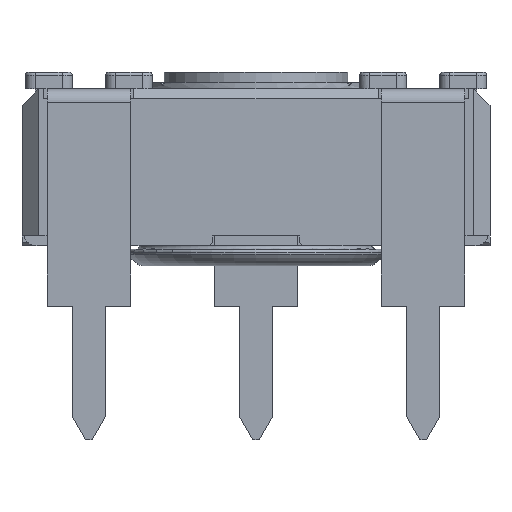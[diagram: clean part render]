
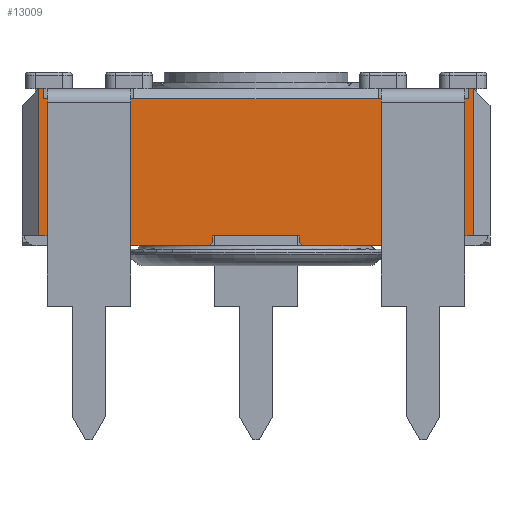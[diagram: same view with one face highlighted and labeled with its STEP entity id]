
A CAD part, front view. The second image highlights one B-rep face of the part: STEP entity #13009.
In plain terms, the highlighted planar face has unit normal (0, -1, 0).
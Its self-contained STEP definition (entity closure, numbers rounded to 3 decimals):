
#979=FACE_OUTER_BOUND('',#1659,.T.);
#1659=EDGE_LOOP('',(#10183,#10184,#10185,#10186,#10187,#10188,#10189,#10190,
#10191,#10192,#10193,#10194,#10195,#10196,#10197,#10198,#10199,#10200,#10201,
#10202,#10203,#10204,#10205,#10206,#10207));
#2163=LINE('',#18351,#3664);
#2171=LINE('',#18371,#3672);
#2195=LINE('',#18418,#3696);
#2196=LINE('',#18420,#3697);
#2201=LINE('',#18431,#3702);
#2225=LINE('',#18478,#3726);
#2413=LINE('',#19033,#3914);
#2426=LINE('',#19057,#3927);
#2576=LINE('',#19607,#4077);
#2781=LINE('',#20130,#4282);
#2786=LINE('',#20140,#4287);
#2791=LINE('',#20150,#4292);
#2806=LINE('',#20176,#4307);
#2914=LINE('',#20494,#4415);
#2922=LINE('',#20512,#4423);
#2928=LINE('',#20520,#4429);
#2929=LINE('',#20523,#4430);
#2930=LINE('',#20525,#4431);
#2931=LINE('',#20527,#4432);
#2932=LINE('',#20528,#4433);
#2933=LINE('',#20529,#4434);
#2934=LINE('',#20530,#4435);
#2935=LINE('',#20531,#4436);
#2936=LINE('',#20532,#4437);
#2937=LINE('',#20533,#4438);
#3664=VECTOR('',#14697,10.);
#3672=VECTOR('',#14719,10.);
#3696=VECTOR('',#14745,10.);
#3697=VECTOR('',#14748,10.);
#3702=VECTOR('',#14763,10.);
#3726=VECTOR('',#14789,10.);
#3914=VECTOR('',#15351,10.);
#3927=VECTOR('',#15378,10.);
#4077=VECTOR('',#15750,10.);
#4282=VECTOR('',#16097,10.);
#4287=VECTOR('',#16102,10.);
#4292=VECTOR('',#16107,10.);
#4307=VECTOR('',#16124,10.);
#4415=VECTOR('',#16380,10.);
#4423=VECTOR('',#16392,10.);
#4429=VECTOR('',#16402,10.);
#4430=VECTOR('',#16405,10.);
#4431=VECTOR('',#16406,10.);
#4432=VECTOR('',#16407,10.);
#4433=VECTOR('',#16408,10.);
#4434=VECTOR('',#16409,10.);
#4435=VECTOR('',#16410,10.);
#4436=VECTOR('',#16411,10.);
#4437=VECTOR('',#16412,10.);
#4438=VECTOR('',#16413,10.);
#5083=VERTEX_POINT('',#18204);
#5089=VERTEX_POINT('',#18221);
#5099=VERTEX_POINT('',#18243);
#5147=VERTEX_POINT('',#18350);
#5152=VERTEX_POINT('',#18370);
#5174=VERTEX_POINT('',#18416);
#5175=VERTEX_POINT('',#18430);
#5197=VERTEX_POINT('',#18476);
#5376=VERTEX_POINT('',#19030);
#5377=VERTEX_POINT('',#19032);
#5380=VERTEX_POINT('',#19054);
#5381=VERTEX_POINT('',#19056);
#5513=VERTEX_POINT('',#19603);
#5665=VERTEX_POINT('',#20129);
#5669=VERTEX_POINT('',#20137);
#5670=VERTEX_POINT('',#20139);
#5674=VERTEX_POINT('',#20147);
#5675=VERTEX_POINT('',#20149);
#5752=VERTEX_POINT('',#20492);
#5753=VERTEX_POINT('',#20493);
#5760=VERTEX_POINT('',#20510);
#5761=VERTEX_POINT('',#20511);
#5762=VERTEX_POINT('',#20522);
#5763=VERTEX_POINT('',#20524);
#5764=VERTEX_POINT('',#20526);
#6418=EDGE_CURVE('',#5147,#5083,#2163,.T.);
#6428=EDGE_CURVE('',#5152,#5147,#2171,.T.);
#6452=EDGE_CURVE('',#5083,#5174,#2195,.T.);
#6453=EDGE_CURVE('',#5089,#5099,#2196,.T.);
#6458=EDGE_CURVE('',#5175,#5089,#2201,.T.);
#6482=EDGE_CURVE('',#5099,#5197,#2225,.T.);
#6761=EDGE_CURVE('',#5377,#5376,#2413,.T.);
#6774=EDGE_CURVE('',#5381,#5380,#2426,.T.);
#6982=EDGE_CURVE('',#5381,#5513,#2576,.T.);
#7208=EDGE_CURVE('',#5665,#5513,#2781,.T.);
#7213=EDGE_CURVE('',#5670,#5669,#2786,.T.);
#7218=EDGE_CURVE('',#5675,#5674,#2791,.T.);
#7233=EDGE_CURVE('',#5675,#5376,#2806,.T.);
#7360=EDGE_CURVE('',#5752,#5753,#2914,.T.);
#7368=EDGE_CURVE('',#5760,#5761,#2922,.T.);
#7374=EDGE_CURVE('',#5670,#5752,#2928,.T.);
#7375=EDGE_CURVE('',#5669,#5762,#2929,.T.);
#7376=EDGE_CURVE('',#5763,#5762,#2930,.T.);
#7377=EDGE_CURVE('',#5763,#5764,#2931,.T.);
#7378=EDGE_CURVE('',#5764,#5665,#2932,.T.);
#7379=EDGE_CURVE('',#5380,#5175,#2933,.T.);
#7380=EDGE_CURVE('',#5152,#5197,#2934,.T.);
#7381=EDGE_CURVE('',#5174,#5377,#2935,.T.);
#7382=EDGE_CURVE('',#5674,#5761,#2936,.T.);
#7383=EDGE_CURVE('',#5760,#5753,#2937,.T.);
#10183=ORIENTED_EDGE('',*,*,#7360,.F.);
#10184=ORIENTED_EDGE('',*,*,#7374,.F.);
#10185=ORIENTED_EDGE('',*,*,#7213,.T.);
#10186=ORIENTED_EDGE('',*,*,#7375,.T.);
#10187=ORIENTED_EDGE('',*,*,#7376,.F.);
#10188=ORIENTED_EDGE('',*,*,#7377,.T.);
#10189=ORIENTED_EDGE('',*,*,#7378,.T.);
#10190=ORIENTED_EDGE('',*,*,#7208,.T.);
#10191=ORIENTED_EDGE('',*,*,#6982,.F.);
#10192=ORIENTED_EDGE('',*,*,#6774,.T.);
#10193=ORIENTED_EDGE('',*,*,#7379,.T.);
#10194=ORIENTED_EDGE('',*,*,#6458,.T.);
#10195=ORIENTED_EDGE('',*,*,#6453,.T.);
#10196=ORIENTED_EDGE('',*,*,#6482,.T.);
#10197=ORIENTED_EDGE('',*,*,#7380,.F.);
#10198=ORIENTED_EDGE('',*,*,#6428,.T.);
#10199=ORIENTED_EDGE('',*,*,#6418,.T.);
#10200=ORIENTED_EDGE('',*,*,#6452,.T.);
#10201=ORIENTED_EDGE('',*,*,#7381,.T.);
#10202=ORIENTED_EDGE('',*,*,#6761,.T.);
#10203=ORIENTED_EDGE('',*,*,#7233,.F.);
#10204=ORIENTED_EDGE('',*,*,#7218,.T.);
#10205=ORIENTED_EDGE('',*,*,#7382,.T.);
#10206=ORIENTED_EDGE('',*,*,#7368,.F.);
#10207=ORIENTED_EDGE('',*,*,#7383,.T.);
#12191=PLANE('',#13876);
#13009=ADVANCED_FACE('',(#979),#12191,.T.);
#13876=AXIS2_PLACEMENT_3D('',#20521,#16403,#16404);
#14697=DIRECTION('',(-1.,0.,0.));
#14719=DIRECTION('',(-1.,0.,0.));
#14745=DIRECTION('',(-1.,0.,0.));
#14748=DIRECTION('',(-1.,0.,0.));
#14763=DIRECTION('',(-1.,0.,0.));
#14789=DIRECTION('',(-1.,0.,0.));
#15351=DIRECTION('',(-1.,0.,0.));
#15378=DIRECTION('',(-1.,0.,0.));
#15750=DIRECTION('',(0.,0.,-1.));
#16097=DIRECTION('',(1.,0.,0.));
#16102=DIRECTION('',(1.,0.,0.));
#16107=DIRECTION('',(1.,0.,0.));
#16124=DIRECTION('',(0.,0.,1.));
#16380=DIRECTION('',(-0.707,0.,-0.707));
#16392=DIRECTION('',(-0.707,0.,0.707));
#16402=DIRECTION('',(0.,0.,-1.));
#16403=DIRECTION('center_axis',(0.,-1.,0.));
#16404=DIRECTION('ref_axis',(0.,0.,-1.));
#16405=DIRECTION('',(0.,0.,-1.));
#16406=DIRECTION('',(-0.707,0.,0.707));
#16407=DIRECTION('',(1.,0.,0.));
#16408=DIRECTION('',(0.,0.,1.));
#16409=DIRECTION('',(0.,0.,-1.));
#16410=DIRECTION('',(1.,0.,0.));
#16411=DIRECTION('',(0.,0.,1.));
#16412=DIRECTION('',(0.,0.,-1.));
#16413=DIRECTION('',(1.,0.,0.));
#18204=CARTESIAN_POINT('',(-13.717,-9.898,4.1));
#18221=CARTESIAN_POINT('',(-1.217,-9.898,4.1));
#18243=CARTESIAN_POINT('',(-3.717,-9.898,4.1));
#18350=CARTESIAN_POINT('',(-11.217,-9.898,4.1));
#18351=CARTESIAN_POINT('',(-3.944,-9.898,4.1));
#18370=CARTESIAN_POINT('',(-11.117,-9.898,4.1));
#18371=CARTESIAN_POINT('',(-3.944,-9.898,4.1));
#18416=CARTESIAN_POINT('',(-13.817,-9.898,4.1));
#18418=CARTESIAN_POINT('',(-3.944,-9.898,4.1));
#18420=CARTESIAN_POINT('',(-1.862,-9.898,4.1));
#18430=CARTESIAN_POINT('',(-1.117,-9.898,4.1));
#18431=CARTESIAN_POINT('',(-1.862,-9.898,4.1));
#18476=CARTESIAN_POINT('',(-3.817,-9.898,4.1));
#18478=CARTESIAN_POINT('',(-1.862,-9.898,4.1));
#19030=CARTESIAN_POINT('',(-13.967,-9.898,4.4));
#19032=CARTESIAN_POINT('',(-13.817,-9.898,4.4));
#19033=CARTESIAN_POINT('',(-14.467,-9.898,4.4));
#19054=CARTESIAN_POINT('',(-1.117,-9.898,4.4));
#19056=CARTESIAN_POINT('',(-0.967,-9.898,4.4));
#19057=CARTESIAN_POINT('',(-14.467,-9.898,4.4));
#19603=CARTESIAN_POINT('',(-0.967,-9.898,0.));
#19607=CARTESIAN_POINT('',(-0.967,-9.898,0.));
#20129=CARTESIAN_POINT('',(-1.467,-9.898,0.));
#20130=CARTESIAN_POINT('',(-0.646,-9.898,0.));
#20137=CARTESIAN_POINT('',(-6.167,-9.898,0.));
#20139=CARTESIAN_POINT('',(-8.767,-9.898,0.));
#20140=CARTESIAN_POINT('',(-14.467,-9.898,0.));
#20147=CARTESIAN_POINT('',(-13.467,-9.898,0.));
#20149=CARTESIAN_POINT('',(-13.967,-9.898,0.));
#20150=CARTESIAN_POINT('',(-7.245,-9.898,0.));
#20176=CARTESIAN_POINT('',(-13.967,-9.898,0.));
#20492=CARTESIAN_POINT('',(-8.767,-9.898,-0.2));
#20493=CARTESIAN_POINT('',(-8.867,-9.898,-0.3));
#20494=CARTESIAN_POINT('',(-6.667,-9.898,1.9));
#20510=CARTESIAN_POINT('',(-13.367,-9.898,-0.3));
#20511=CARTESIAN_POINT('',(-13.467,-9.898,-0.2));
#20512=CARTESIAN_POINT('',(-10.242,-9.898,-3.425));
#20520=CARTESIAN_POINT('',(-8.767,-9.898,0.));
#20521=CARTESIAN_POINT('Origin',(-0.467,-9.898,0.));
#20522=CARTESIAN_POINT('',(-6.167,-9.898,-0.2));
#20523=CARTESIAN_POINT('',(-6.167,-9.898,0.));
#20524=CARTESIAN_POINT('',(-6.067,-9.898,-0.3));
#20525=CARTESIAN_POINT('',(-4.767,-9.898,-1.6));
#20526=CARTESIAN_POINT('',(-1.467,-9.898,-0.3));
#20527=CARTESIAN_POINT('',(-0.467,-9.898,-0.3));
#20528=CARTESIAN_POINT('',(-1.467,-9.898,-0.15));
#20529=CARTESIAN_POINT('',(-1.117,-9.898,2.2));
#20530=CARTESIAN_POINT('',(-3.967,-9.898,4.1));
#20531=CARTESIAN_POINT('',(-13.817,-9.898,2.2));
#20532=CARTESIAN_POINT('',(-13.467,-9.898,-0.15));
#20533=CARTESIAN_POINT('',(-0.467,-9.898,-0.3));
